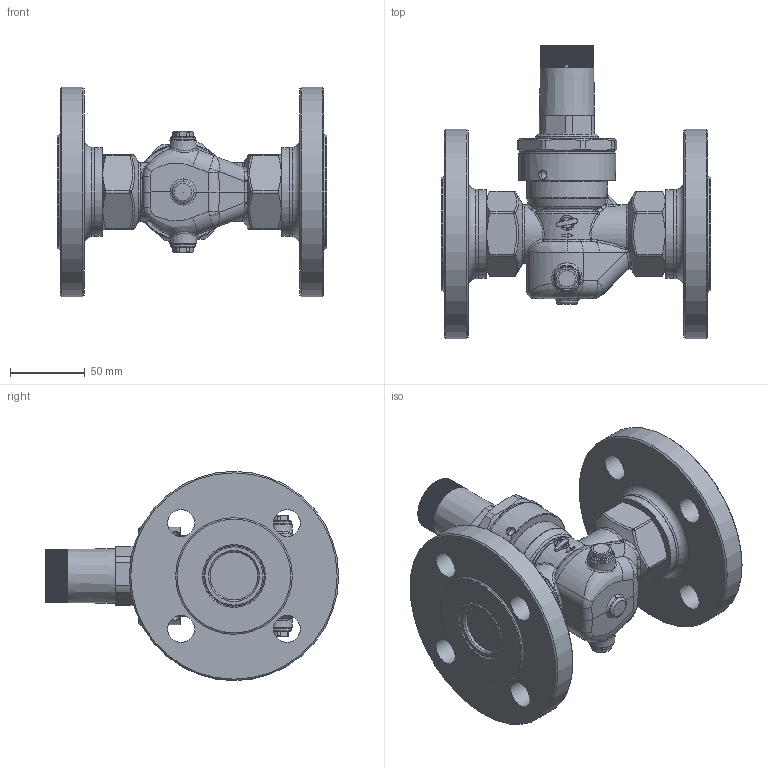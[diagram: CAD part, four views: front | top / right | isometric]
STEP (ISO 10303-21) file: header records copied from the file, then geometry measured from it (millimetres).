
FILE_DESCRIPTION(/* description */ (''),/* implementation_level */ '2;1');
FILE_NAME(/* name */ 'U:/AirCom-Produktdokumentation/Druckregler/RWF/Zeichnungen/CAD-Aircom/3D/B-RWF-10A.step',/* time_stamp */ '2022-07-04T16:26:10+02:00',/* author */ (''),/* organization */ (''),/* preprocessor_version */ 'ST-DEVELOPER v19',/* originating_system */ 'Autodesk Translation Framework v11.7.0.108',/* authorisation */ '');
FILE_SCHEMA (('AUTOMOTIVE_DESIGN { 1 0 10303 214 3 1 1 }'));
Products named in the file (1): 055005_step
Bounding box: 180 x 196.13 x 140 mm (x, y, z)
Volume: 1029855.6 mm3; surface area: 128284.4 mm2
Topology: 1 solids, 2 shells, 1411 faces, 3521 edges, 2142 vertices
Faces by surface type: plane 787, cylinder 334, bspline 200, cone 53, sphere 20, torus 17
Full cylindrical faces by diameter (mm): 6.1 x3, 12 x1, 13 x1, 14.5 x1, 16.5 x2, 18 x8, 32 x2, 39 x1, 42 x1, 42.2 x1, 54 x1, 56.5 x1, 58 x1, 58.5 x1, 59.5 x2, 60 x2, 60.2 x1, 65 x1, 76 x2, 140 x2
Entity records: 61255 total; most frequent: CARTESIAN_POINT 29266, ORIENTED_EDGE 7022, DIRECTION 6259, EDGE_CURVE 3511, AXIS2_PLACEMENT_3D 2376, VERTEX_POINT 2142, LINE 1507, VECTOR 1507
